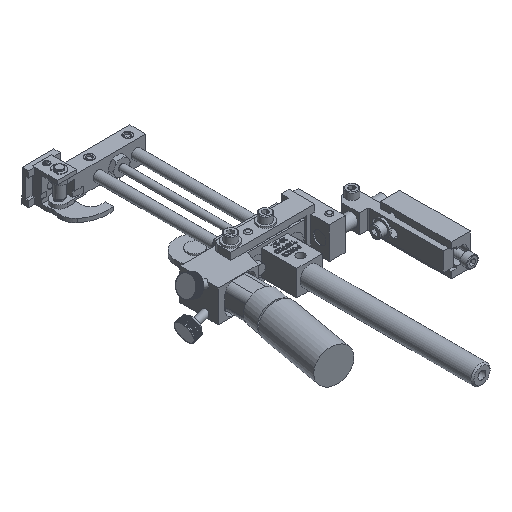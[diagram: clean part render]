
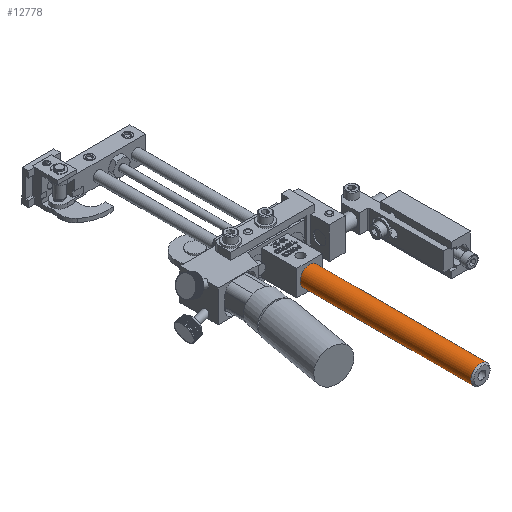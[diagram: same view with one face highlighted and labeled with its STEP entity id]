
A CAD part, isometric view. The second image highlights one B-rep face of the part: STEP entity #12778.
In plain terms, the highlighted cylindrical face has radius 4.763 mm (diameter 9.525 mm), a full revolution.
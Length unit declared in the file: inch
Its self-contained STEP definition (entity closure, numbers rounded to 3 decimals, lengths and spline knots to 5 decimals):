
#12747=CARTESIAN_POINT('',(0.44663,-7.31533,-0.04751));
#12748=VERTEX_POINT('',#12747);
#12749=CARTESIAN_POINT('',(0.44663,-7.31533,-0.23501));
#12750=DIRECTION('',(0.,-1.0,0.));
#12751=DIRECTION('',(0.,0.,-1.0));
#12752=AXIS2_PLACEMENT_3D('',#12749,#12750,#12751);
#12753=CIRCLE('',#12752,0.1875);
#12754=EDGE_CURVE('',#12748,#12748,#12753,.T.);
#12759=CARTESIAN_POINT('',(0.44663,-3.97033,-0.23501));
#12760=DIRECTION('',(0.,-1.0,0.));
#12761=DIRECTION('',(0.,0.,-1.0));
#12762=AXIS2_PLACEMENT_3D('',#12759,#12760,#12761);
#12763=CYLINDRICAL_SURFACE('',#12762,0.1875);
#12764=CARTESIAN_POINT('',(0.44663,-3.97033,-0.04751));
#12765=VERTEX_POINT('',#12764);
#12766=CARTESIAN_POINT('',(0.44663,-3.97033,-0.23501));
#12767=DIRECTION('',(0.,1.0,0.));
#12768=DIRECTION('',(0.,0.,-1.0));
#12769=AXIS2_PLACEMENT_3D('',#12766,#12767,#12768);
#12770=CIRCLE('',#12769,0.1875);
#12771=EDGE_CURVE('',#12765,#12765,#12770,.T.);
#12772=ORIENTED_EDGE('',*,*,#12771,.F.);
#12773=EDGE_LOOP('',(#12772));
#12774=FACE_OUTER_BOUND('',#12773,.T.);
#12775=ORIENTED_EDGE('',*,*,#12754,.F.);
#12776=EDGE_LOOP('',(#12775));
#12777=FACE_BOUND('',#12776,.T.);
#12778=ADVANCED_FACE('',(#12774,#12777),#12763,.T.);
